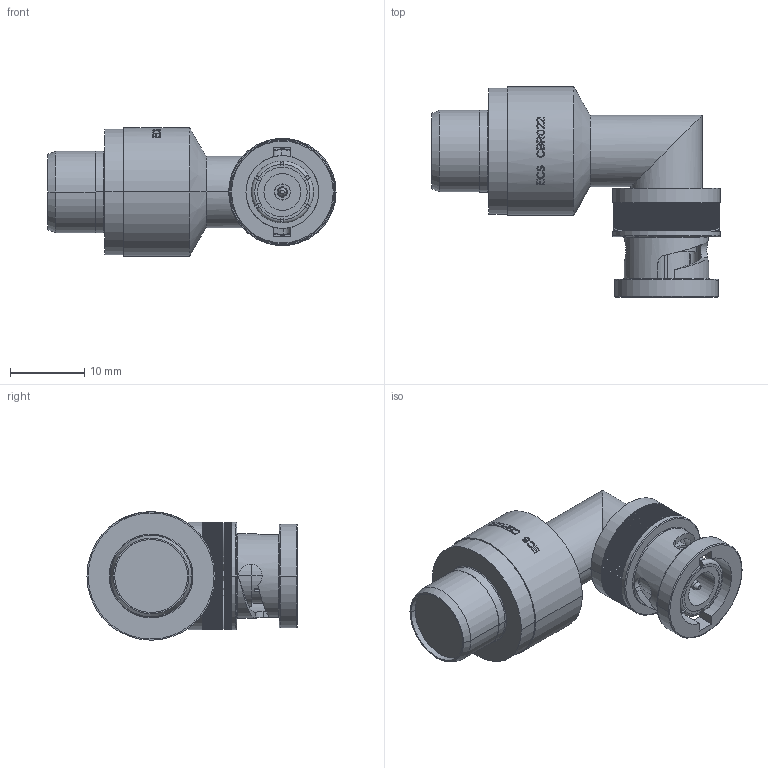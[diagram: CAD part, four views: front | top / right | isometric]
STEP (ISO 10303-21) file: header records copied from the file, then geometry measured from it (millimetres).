
FILE_DESCRIPTION((''),'2;1');
FILE_NAME('CBR022','2019-12-02T15:52:03',('paul.nurczyk'),('Carlisle Interconnect Technologies'),'CREO PARAMETRIC BY PTC INC, 2017260','CREO PARAMETRIC BY PTC INC, 2017260','');
FILE_SCHEMA(('CONFIG_CONTROL_DESIGN'));
Length unit declared in the file: inch
Products named in the file (1): CBR022
Bounding box: 38.71 x 28.23 x 17.25 mm (x, y, z)
Volume: 6215.5 mm3; surface area: 3506.6 mm2
Topology: 1 solids, 10 shells, 1196 faces, 3756 edges, 2597 vertices
Faces by surface type: plane 885, bspline 209, cylinder 76, torus 18, cone 8
Entity records: 47545 total; most frequent: CARTESIAN_POINT 16113, ORIENTED_EDGE 7201, DIRECTION 5246, EDGE_CURVE 3756, VECTOR 2686, LINE 2686, VERTEX_POINT 2597, AXIS2_PLACEMENT_3D 1280
